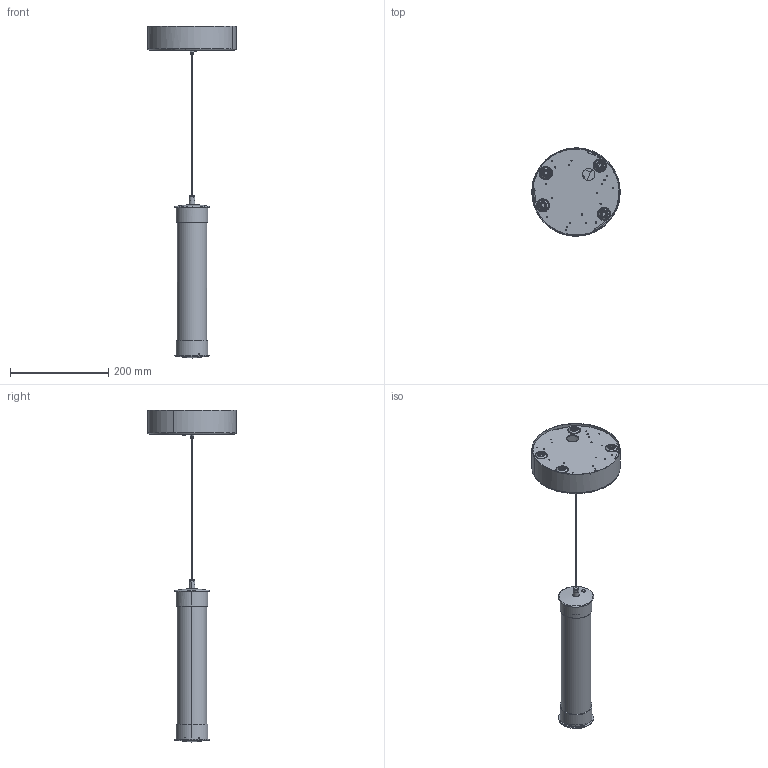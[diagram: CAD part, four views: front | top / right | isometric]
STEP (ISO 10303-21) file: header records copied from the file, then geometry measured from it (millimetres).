
FILE_DESCRIPTION(/* description */ (''),/* implementation_level */ '2;1');
FILE_NAME(/* name */ '00343MP3LD10ULPB - STACKING S 30 V NAKED USA',/* time_stamp */ '2023-09-27T17:24:02+02:00',/* author */ (''),/* organization */ (''),/* preprocessor_version */ 'ST-DEVELOPER v16.5',/* originating_system */ 'Rhino 7.27',/* authorisation */ '');
FILE_SCHEMA (('CONFIG_CONTROL_DESIGN'));
Length unit declared in the file: millimetre
Products named in the file (1): Document
Bounding box: 179.42 x 179.42 x 675.06 mm (x, y, z)
Volume: 382200.2 mm3; surface area: 376395.1 mm2
Topology: 17 solids, 51 shells, 665 faces, 1757 edges, 1203 vertices
Faces by surface type: plane 274, cylinder 259, bspline 132
Entity records: 21999 total; most frequent: CARTESIAN_POINT 10615, ORIENTED_EDGE 3302, EDGE_CURVE 1747, VERTEX_POINT 1203, EDGE_LOOP 846, B_SPLINE_CURVE_WITH_KNOTS 816, ADVANCED_FACE 665, FACE_OUTER_BOUND 665
